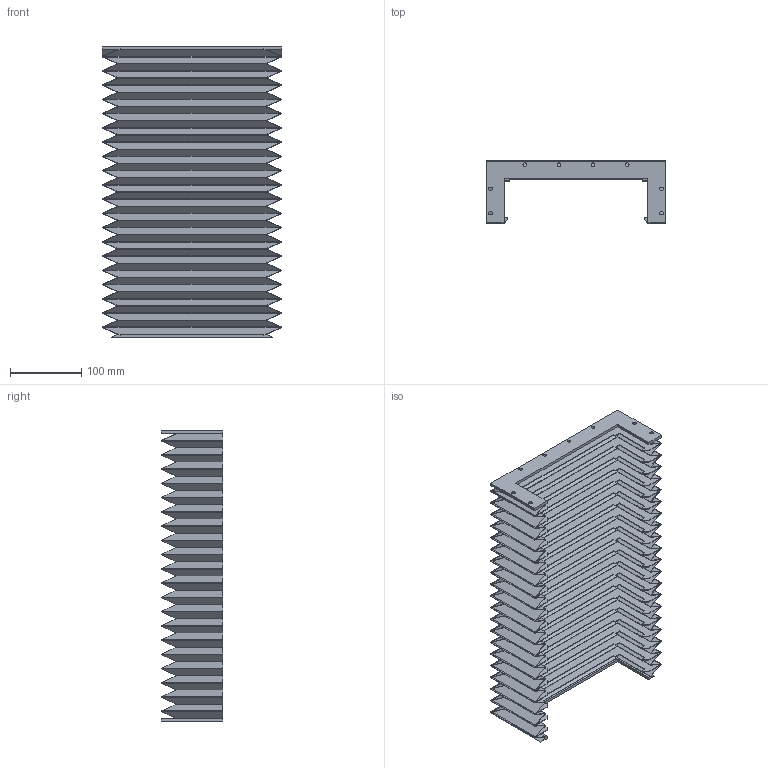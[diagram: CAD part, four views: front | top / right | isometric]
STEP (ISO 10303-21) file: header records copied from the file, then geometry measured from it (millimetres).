
FILE_DESCRIPTION (( 'STEP AP214' ), '1' );
FILE_NAME ('Elastic bellows.STEP', '2021-06-28T12:25:45', ( '' ), ( '' ), 'SwSTEP 2.0', 'SolidWorks 2017', '' );
FILE_SCHEMA (( 'AUTOMOTIVE_DESIGN' ));
Length unit declared in the file: millimetre
Products named in the file (1): Elastic bellows
Bounding box: 252 x 87 x 408 mm (x, y, z)
Volume: 392694.9 mm3; surface area: 1125880.6 mm2
Topology: 1 solids, 1 shells, 753 faces, 2213 edges, 1462 vertices
Faces by surface type: plane 729, cylinder 24
Entity records: 24599 total; most frequent: CARTESIAN_POINT 4429, ORIENTED_EDGE 4426, DIRECTION 3769, EDGE_CURVE 2213, LINE 2165, VECTOR 2165, VERTEX_POINT 1462, AXIS2_PLACEMENT_3D 802
